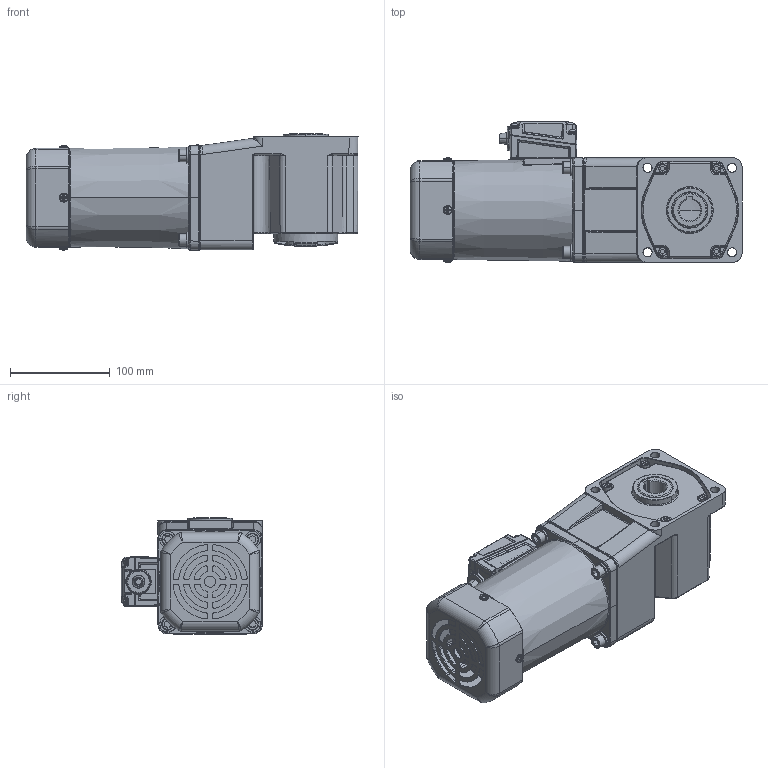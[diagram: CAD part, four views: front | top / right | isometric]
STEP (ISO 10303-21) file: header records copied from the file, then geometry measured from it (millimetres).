
FILE_DESCRIPTION( ('This file contains a STEP AP42 implementation' ,'as created by ZW3D STEP Interface translator.' ,'') ,'2;1' );
FILE_NAME( '200yt03.stp' ,'24 712.111334', (''), ('ZWCAD Software Co.'), 'Version 1.0', 'ZW3D to STEP translator', '' );
FILE_SCHEMA(('AUTOMOTIVE_DESIGN { 1 0 10303 214 1 1 1 1 }'));
Length unit declared in the file: millimetre
Products named in the file (9): 0; 200yt03; 100YT200G_ASM; 100YT200G; YCX_6-200; 3D-JXH-150_300; 100GF-RC_ASM; 100GF-RC; FCG-ZJ100
Assembly tree (7 placements, depth 3):
  0
  200yt03
    100YT200G_ASM
      100YT200G
      YCX_6-200
    3D-JXH-150_300
    100GF-RC_ASM
      100GF-RC
      FCG-ZJ100
Bounding box: 333.4 x 142.39 x 117.49 mm (x, y, z)
Volume: 1815758 mm3; surface area: 360479.1 mm2
Topology: 5 solids, 24 shells, 3614 faces, 9031 edges, 5585 vertices
Faces by surface type: plane 1168, cylinder 1107, bspline 719, torus 339, cone 189, sphere 92
Entity records: 163673 total; most frequent: CARTESIAN_POINT 78452, ORIENTED_EDGE 18026, DIRECTION 15772, EDGE_CURVE 9013, AXIS2_PLACEMENT_3D 6424, VERTEX_POINT 5585, EDGE_LOOP 3836, FACE_OUTER_BOUND 3614
